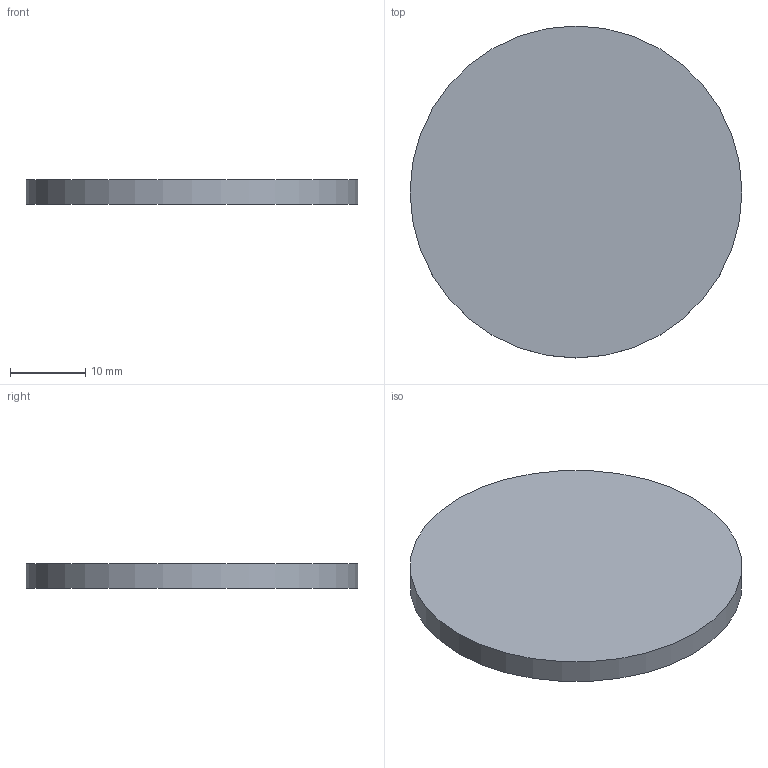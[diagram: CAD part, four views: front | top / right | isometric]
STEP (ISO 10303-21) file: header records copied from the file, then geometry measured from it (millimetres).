
FILE_DESCRIPTION(/* description */ (''),/* implementation_level */ '2;1');
FILE_NAME(/* name */ '4004604.stp',/* time_stamp */ '2016-09-26T09:42:11+02:00',/* author */ (''),/* organization */ (''),/* preprocessor_version */ 'ST-DEVELOPER v16',/* originating_system */ 'SIEMENS PLM Software NX 11.0',/* authorisation */ '');
FILE_SCHEMA (('AUTOMOTIVE_DESIGN { 1 0 10303 214 3 1 1 1 }'));
Length unit declared in the file: millimetre
Products named in the file (1): 4004604_LINKEDEXT_jt
Bounding box: 44 x 44 x 3.2 mm (x, y, z)
Surface area: 3483.4 mm2 (no closed solid volume)
Topology: 0 solids, 1 shells, 3 faces, 3 edges, 2 vertices
Faces by surface type: plane 2, cylinder 1
Full cylindrical faces by diameter (mm): 44 x1
Entity records: 86 total; most frequent: DIRECTION 12, CARTESIAN_POINT 8, AXIS2_PLACEMENT_3D 6, EDGE_LOOP 4, ORIENTED_EDGE 4, ADVANCED_FACE 3, PROPERTY_DEFINITION_REPRESENTATION 2, REPRESENTATION 2
